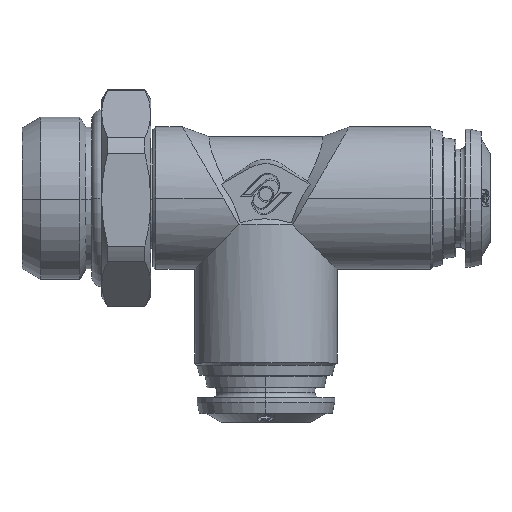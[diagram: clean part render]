
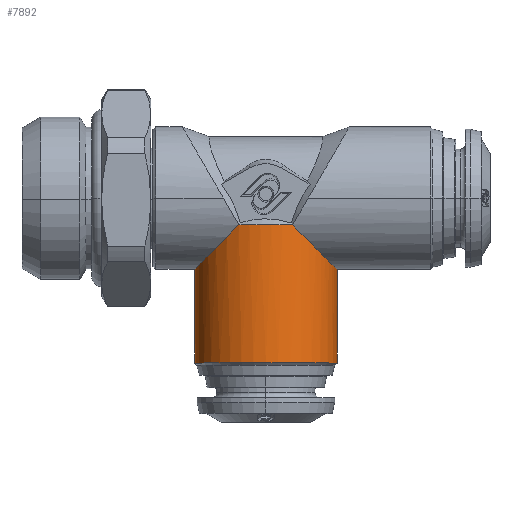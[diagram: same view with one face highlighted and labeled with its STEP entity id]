
A CAD part, top view. The second image highlights one B-rep face of the part: STEP entity #7892.
In plain terms, the highlighted cylindrical face has radius 7.25 mm (diameter 14.5 mm), a partial arc.
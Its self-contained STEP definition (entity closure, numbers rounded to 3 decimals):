
#425 = CIRCLE ( 'NONE', #7246, 7.25 ) ;
#455 = LINE ( 'NONE', #12238, #458 ) ;
#457 = CIRCLE ( 'NONE', #7255, 7.25 ) ;
#458 = VECTOR ( 'NONE', #12241, 1000. ) ;
#459 = LINE ( 'NONE', #12274, #462 ) ;
#462 = VECTOR ( 'NONE', #12277, 1000. ) ;
#1073 = AXIS2_PLACEMENT_3D ( 'NONE', #18102, #18103, #18101 ) ;
#3485 = VERTEX_POINT ( 'NONE', #23433 ) ;
#7246 = AXIS2_PLACEMENT_3D ( 'NONE', #12116, #12118, #12120 ) ;
#7255 = AXIS2_PLACEMENT_3D ( 'NONE', #12259, #12261, #12263 ) ;
#7892 = ADVANCED_FACE ( 'NONE', ( #9244 ), #9249, .T. ) ;
#9244 = FACE_OUTER_BOUND ( 'NONE', #14756, .T. ) ;
#9249 = CYLINDRICAL_SURFACE ( 'NONE', #1073, 7.25 ) ;
#12116 = CARTESIAN_POINT ( 'NONE',  ( -3.041, -12.602, 0. ) ) ;
#12118 = DIRECTION ( 'NONE',  ( 0., 1., 0. ) ) ;
#12120 = DIRECTION ( 'NONE',  ( -1., 0., 0. ) ) ;
#12227 = CARTESIAN_POINT ( 'NONE',  ( 4.209, -3.084, 0. ) ) ;
#12229 = CARTESIAN_POINT ( 'NONE',  ( 4.209, -3.084, 3.042 ) ) ;
#12238 = CARTESIAN_POINT ( 'NONE',  ( 4.209, 4.166, 0. ) ) ;
#12241 = DIRECTION ( 'NONE',  ( 0., 1., 0. ) ) ;
#12246 = CARTESIAN_POINT ( 'NONE',  ( 2.511, -1.386, 5.567 ) ) ;
#12248 = CARTESIAN_POINT ( 'NONE',  ( -0.306, 1.431, 6.714 ) ) ;
#12254 = CARTESIAN_POINT ( 'NONE',  ( -5.776, 1.431, 6.714 ) ) ;
#12257 = CARTESIAN_POINT ( 'NONE',  ( -8.594, -1.386, 5.567 ) ) ;
#12259 = CARTESIAN_POINT ( 'NONE',  ( -3.041, 1.431, 0. ) ) ;
#12261 = DIRECTION ( 'NONE',  ( 0., -1., 0. ) ) ;
#12263 = DIRECTION ( 'NONE',  ( 1., 0., 0. ) ) ;
#12267 = CARTESIAN_POINT ( 'NONE',  ( -10.291, -3.084, 3.042 ) ) ;
#12269 = CARTESIAN_POINT ( 'NONE',  ( -10.291, -3.084, 0. ) ) ;
#12274 = CARTESIAN_POINT ( 'NONE',  ( -10.291, 4.166, 0. ) ) ;
#12277 = DIRECTION ( 'NONE',  ( 0., 1., 0. ) ) ;
#14756 = EDGE_LOOP ( 'NONE', ( #22774, #22775, #22776, #22777, #22778, #22779 ) ) ;
#15877 = CARTESIAN_POINT ( 'NONE',  ( -0.306, 1.431, 6.714 ) ) ;
#15907 = CARTESIAN_POINT ( 'NONE',  ( 4.209, -12.602, 0. ) ) ;
#15931 = CARTESIAN_POINT ( 'NONE',  ( 4.209, -3.084, 0. ) ) ;
#15935 = CARTESIAN_POINT ( 'NONE',  ( -5.776, 1.431, 6.714 ) ) ;
#15936 = CARTESIAN_POINT ( 'NONE',  ( -10.291, -3.084, 0. ) ) ;
#16942 =( BOUNDED_CURVE ( )  B_SPLINE_CURVE ( 3, ( #12227, #12229, #12246, #12248 ),
 .UNSPECIFIED., .F., .F. ) 
 B_SPLINE_CURVE_WITH_KNOTS ( ( 4, 4 ),
 ( 3.142, 4.326 ),
 .UNSPECIFIED. ) 
 CURVE ( )  GEOMETRIC_REPRESENTATION_ITEM ( )  RATIONAL_B_SPLINE_CURVE ( ( 1., 0.887, 0.887, 1. ) ) 
 REPRESENTATION_ITEM ( '' )  );
#16943 =( BOUNDED_CURVE ( )  B_SPLINE_CURVE ( 3, ( #12254, #12257, #12267, #12269 ),
 .UNSPECIFIED., .F., .F. ) 
 B_SPLINE_CURVE_WITH_KNOTS ( ( 4, 4 ),
 ( 5.099, 6.283 ),
 .UNSPECIFIED. ) 
 CURVE ( )  GEOMETRIC_REPRESENTATION_ITEM ( )  RATIONAL_B_SPLINE_CURVE ( ( 1., 0.887, 0.887, 1. ) ) 
 REPRESENTATION_ITEM ( '' )  );
#17098 = EDGE_CURVE ( 'NONE', #3485, #19105, #425, .T. ) ;
#17118 = EDGE_CURVE ( 'NONE', #19105, #19129, #455, .T. ) ;
#17119 = EDGE_CURVE ( 'NONE', #19129, #19075, #16942, .T. ) ;
#17120 = EDGE_CURVE ( 'NONE', #19075, #19133, #457, .T. ) ;
#17121 = EDGE_CURVE ( 'NONE', #19133, #19134, #16943, .T. ) ;
#17122 = EDGE_CURVE ( 'NONE', #3485, #19134, #459, .T. ) ;
#18101 = DIRECTION ( 'NONE',  ( -1., 0., 0. ) ) ;
#18102 = CARTESIAN_POINT ( 'NONE',  ( -3.041, 4.166, 0. ) ) ;
#18103 = DIRECTION ( 'NONE',  ( 0., 1., 0. ) ) ;
#19075 = VERTEX_POINT ( 'NONE', #15877 ) ;
#19105 = VERTEX_POINT ( 'NONE', #15907 ) ;
#19129 = VERTEX_POINT ( 'NONE', #15931 ) ;
#19133 = VERTEX_POINT ( 'NONE', #15935 ) ;
#19134 = VERTEX_POINT ( 'NONE', #15936 ) ;
#22774 = ORIENTED_EDGE ( 'NONE', *, *, #17098, .T. ) ;
#22775 = ORIENTED_EDGE ( 'NONE', *, *, #17118, .T. ) ;
#22776 = ORIENTED_EDGE ( 'NONE', *, *, #17119, .T. ) ;
#22777 = ORIENTED_EDGE ( 'NONE', *, *, #17120, .T. ) ;
#22778 = ORIENTED_EDGE ( 'NONE', *, *, #17121, .T. ) ;
#22779 = ORIENTED_EDGE ( 'NONE', *, *, #17122, .F. ) ;
#23433 = CARTESIAN_POINT ( 'NONE',  ( -10.291, -12.602, 0. ) ) ;
